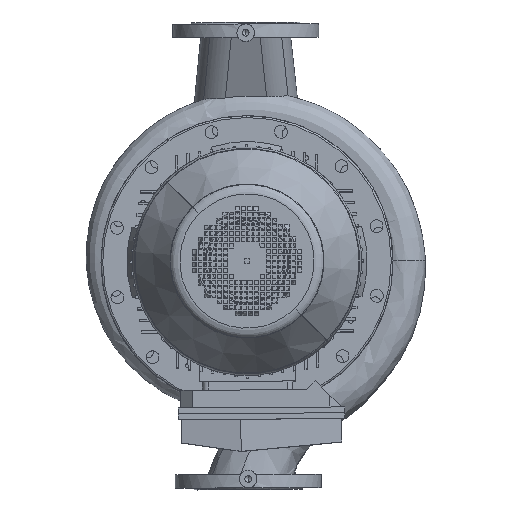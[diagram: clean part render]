
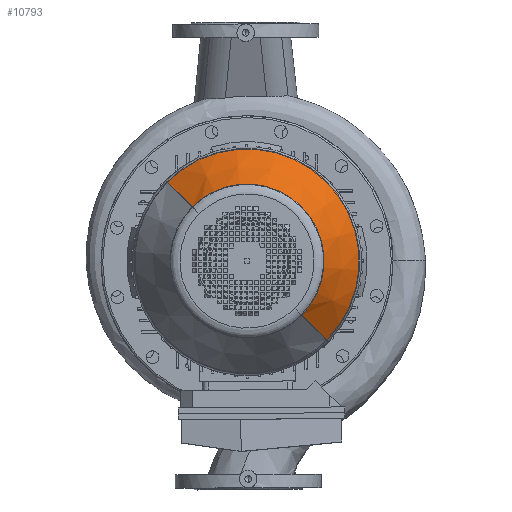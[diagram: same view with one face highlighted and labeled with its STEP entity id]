
A CAD part, top view. The second image highlights one B-rep face of the part: STEP entity #10793.
In plain terms, the highlighted conical face has half-angle 32.471 degrees and reference radius 126 mm.
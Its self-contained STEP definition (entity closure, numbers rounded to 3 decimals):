
#10793=ADVANCED_FACE('',(#25075),#25076,.T.);
#12489=EDGE_CURVE('',#28038,#28039,#28040,.T.);
#12491=EDGE_CURVE('',#28042,#28043,#28044,.T.);
#25075=FACE_OUTER_BOUND('',#47269,.T.);
#25076=CONICAL_SURFACE('',#47270,126.0,0.567);
#28038=VERTEX_POINT('',#50237);
#28039=VERTEX_POINT('',#50238);
#28040=CIRCLE('',#50239,192.873);
#28042=VERTEX_POINT('',#50242);
#28043=VERTEX_POINT('',#50243);
#28044=CIRCLE('',#50244,131.894);
#47269=EDGE_LOOP('',(#78618,#78619,#78620,#78621));
#47270=AXIS2_PLACEMENT_3D('',#78622,#78623,#78624);
#50237=CARTESIAN_POINT('',(192.873,0.,114.913));
#50238=CARTESIAN_POINT('',(-192.873,0.,114.913));
#50239=AXIS2_PLACEMENT_3D('',#87073,#87074,#87075);
#50242=CARTESIAN_POINT('',(-131.894,0.,210.738));
#50243=CARTESIAN_POINT('',(131.894,0.,210.738));
#50244=AXIS2_PLACEMENT_3D('',#87076,#87077,#87078);
#78618=ORIENTED_EDGE('',*,*,#95329,.F.);
#78619=ORIENTED_EDGE('',*,*,#12489,.F.);
#78620=ORIENTED_EDGE('',*,*,#95330,.F.);
#78621=ORIENTED_EDGE('',*,*,#12491,.F.);
#78622=CARTESIAN_POINT('',(0.0,0.0,220.0));
#78623=DIRECTION('',(-0.0,-0.0,-1.0));
#78624=DIRECTION('',(-1.0,0.,0.0));
#87073=CARTESIAN_POINT('',(0.0,0.0,114.913));
#87074=DIRECTION('',(0.0,0.0,-1.0));
#87075=DIRECTION('',(1.0,0.,0.0));
#87076=CARTESIAN_POINT('',(0.0,0.0,210.738));
#87077=DIRECTION('',(0.0,-0.0,1.0));
#87078=DIRECTION('',(1.0,0.,0.0));
#95329=EDGE_CURVE('',#28039,#28042,#99250,.T.);
#95330=EDGE_CURVE('',#28043,#28038,#99251,.T.);
#99250=LINE('',#105253,#105254);
#99251=LINE('',#105255,#105256);
#105253=CARTESIAN_POINT('',(-126.0,0.,220.0));
#105254=VECTOR('',#113532,1.0);
#105255=CARTESIAN_POINT('',(126.0,0.,220.0));
#105256=VECTOR('',#113533,1.0);
#113532=DIRECTION('',(0.537,0.,0.844));
#113533=DIRECTION('',(0.537,0.,-0.844));
